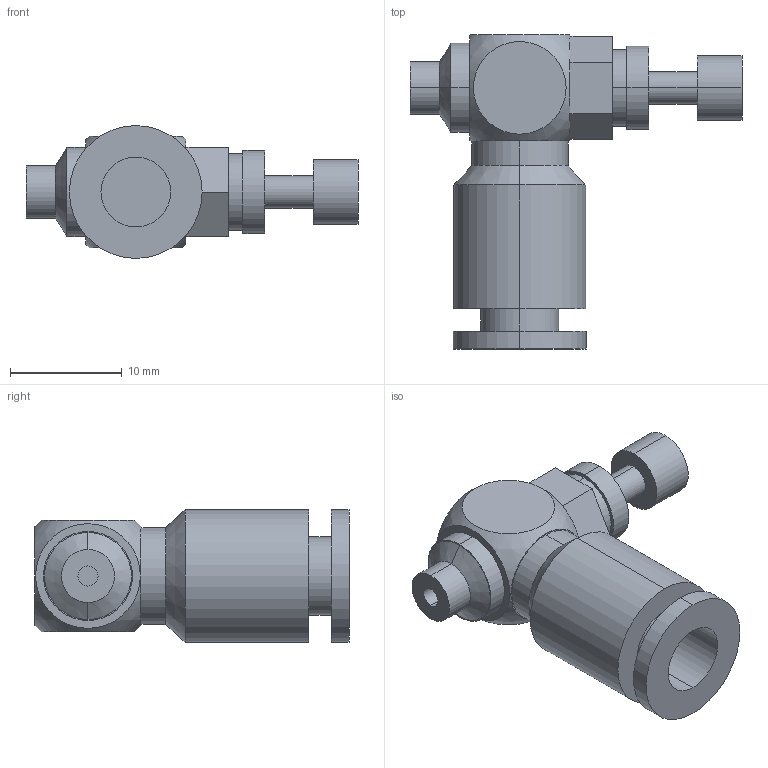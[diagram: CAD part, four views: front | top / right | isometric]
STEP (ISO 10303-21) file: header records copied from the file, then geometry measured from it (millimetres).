
FILE_DESCRIPTION (( 'STEP AP203' ), '1' );
FILE_NAME ('EMSC06-M5.STEP', '2024-03-04T03:07:17', ( 'E.mc' ), ( 'E.mc' ), 'SwSTEP 2.0', 'SolidWorks 2017', '' );
FILE_SCHEMA (( 'CONFIG_CONTROL_DESIGN' ));
Length unit declared in the file: millimetre
Products named in the file (1): EMSC06-M5
Bounding box: 29.76 x 28.15 x 11.9 mm (x, y, z)
Volume: 2700.7 mm3; surface area: 2133.8 mm2
Topology: 1 solids, 1 shells, 54 faces, 116 edges, 76 vertices
Faces by surface type: cylinder 24, plane 24, cone 4, sphere 2
Entity records: 1543 total; most frequent: DIRECTION 288, CARTESIAN_POINT 241, ORIENTED_EDGE 224, AXIS2_PLACEMENT_3D 121, EDGE_CURVE 112, VERTEX_POINT 74, EDGE_LOOP 68, CIRCLE 66
